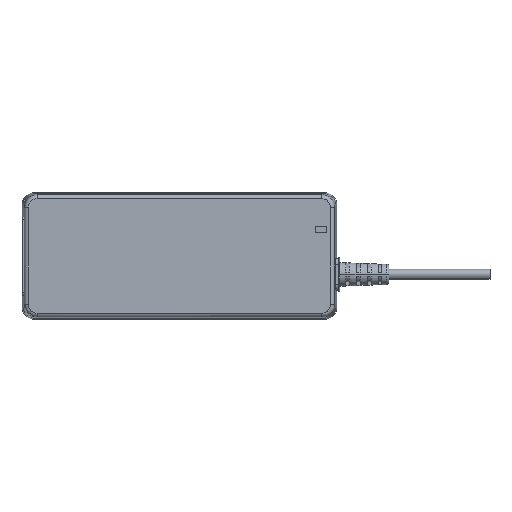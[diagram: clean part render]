
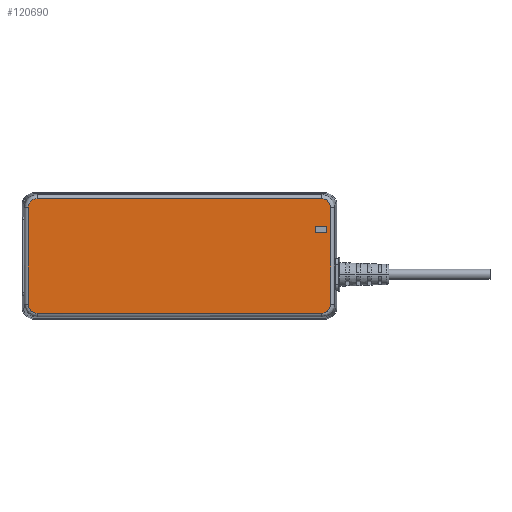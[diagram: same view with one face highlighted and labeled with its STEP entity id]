
A CAD part, top view. The second image highlights one B-rep face of the part: STEP entity #120690.
In plain terms, the highlighted planar face has unit normal (0, 0, 1).
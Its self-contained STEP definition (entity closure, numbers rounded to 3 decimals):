
#93270=CARTESIAN_POINT('',(76.196,49.956,
34.3));
#93280=VERTEX_POINT('',#93270);
#93310=CARTESIAN_POINT('',(79.691,53.452,
34.3));
#93320=CARTESIAN_POINT('',(79.691,52.537,
34.3));
#93330=CARTESIAN_POINT('',(79.358,51.655,
34.3));
#93340=CARTESIAN_POINT('',(78.767,50.88,
34.3));
#93350=CARTESIAN_POINT('',(77.993,50.289,
34.3));
#93360=CARTESIAN_POINT('',(77.111,49.956,
34.3));
#93370=CARTESIAN_POINT('',(76.196,49.956,
34.3));
#93380=B_SPLINE_CURVE_WITH_KNOTS('',6,(#93310,#93320,#93330,#93340,
#93350,#93360,#93370),.UNSPECIFIED.,.F.,.F.,(7,7),(0.,1.),.UNSPECIFIED.)
;
#93390=CARTESIAN_POINT('',(79.691,53.452,
34.3));
#93400=VERTEX_POINT('',#93390);
#93410=EDGE_CURVE('',#93400,#93280,#93380,.T.);
#94140=CARTESIAN_POINT('',(76.196,95.26,
34.3));
#94150=VERTEX_POINT('',#94140);
#94270=CARTESIAN_POINT('',(79.691,91.765,
34.3));
#94280=VERTEX_POINT('',#94270);
#94310=CARTESIAN_POINT('',(76.196,95.26,
34.3));
#94320=CARTESIAN_POINT('',(77.111,95.26,
34.3));
#94330=CARTESIAN_POINT('',(77.993,94.927,
34.3));
#94340=CARTESIAN_POINT('',(78.767,94.336,
34.3));
#94350=CARTESIAN_POINT('',(79.358,93.562,
34.3));
#94360=CARTESIAN_POINT('',(79.691,92.68,
34.3));
#94370=CARTESIAN_POINT('',(79.691,91.765,
34.3));
#94380=B_SPLINE_CURVE_WITH_KNOTS('',6,(#94310,#94320,#94330,#94340,
#94350,#94360,#94370),.UNSPECIFIED.,.F.,.F.,(7,7),(0.,1.),.UNSPECIFIED.)
;
#94390=EDGE_CURVE('',#94150,#94280,#94380,.T.);
#95020=CARTESIAN_POINT('',(-36.538,49.956,
34.3));
#95030=VERTEX_POINT('',#95020);
#95150=CARTESIAN_POINT('',(-40.033,53.452,
34.3));
#95160=VERTEX_POINT('',#95150);
#95190=CARTESIAN_POINT('',(-36.538,49.956,
34.3));
#95200=CARTESIAN_POINT('',(-37.453,49.956,
34.3));
#95210=CARTESIAN_POINT('',(-38.335,50.289,
34.3));
#95220=CARTESIAN_POINT('',(-39.109,50.88,
34.3));
#95230=CARTESIAN_POINT('',(-39.7,51.655,
34.3));
#95240=CARTESIAN_POINT('',(-40.033,52.537,
34.3));
#95250=CARTESIAN_POINT('',(-40.033,53.452,
34.3));
#95260=B_SPLINE_CURVE_WITH_KNOTS('',6,(#95190,#95200,#95210,#95220,
#95230,#95240,#95250),.UNSPECIFIED.,.F.,.F.,(7,7),(0.,1.),.UNSPECIFIED.)
;
#95270=EDGE_CURVE('',#95030,#95160,#95260,.T.);
#103730=CARTESIAN_POINT('',(-36.535,95.265,
34.3));
#103740=VERTEX_POINT('',#103730);
#103860=CARTESIAN_POINT('',(0.,95.26,34.3));
#103870=DIRECTION('',(-1.,0.,0.));
#103880=VECTOR('',#103870,1.);
#103890=LINE('',#103860,#103880);
#103900=EDGE_CURVE('',#94150,#103740,#103890,.T.);
#104900=CARTESIAN_POINT('',(0.,49.956,34.3));
#104910=DIRECTION('',(-1.,0.,0.));
#104920=VECTOR('',#104910,1.);
#104930=LINE('',#104900,#104920);
#104940=EDGE_CURVE('',#93280,#95030,#104930,.T.);
#105120=CARTESIAN_POINT('',(-36.529,91.756,
34.3));
#105130=DIRECTION('',(0.,0.,1.));
#105140=DIRECTION('',(1.,0.,0.));
#105150=AXIS2_PLACEMENT_3D('',#105120,#105130,#105140);
#105160=CIRCLE('',#105150,3.508);
#105170=CARTESIAN_POINT('',(-40.033,91.765,
34.3));
#105180=VERTEX_POINT('',#105170);
#105190=EDGE_CURVE('',#103740,#105180,#105160,.T.);
#111280=CARTESIAN_POINT('',(79.691,0.,34.3));
#111290=DIRECTION('',(0.,-1.,0.));
#111300=VECTOR('',#111290,1.);
#111310=LINE('',#111280,#111300);
#111320=EDGE_CURVE('',#94280,#93400,#111310,.T.);
#120150=CARTESIAN_POINT('',(-40.271,49.718,
34.3));
#120160=DIRECTION('',(0.,0.,1.));
#120170=DIRECTION('',(1.,0.,0.));
#120180=AXIS2_PLACEMENT_3D('',#120150,#120160,#120170);
#120190=PLANE('',#120180);
#120200=CARTESIAN_POINT('',(-40.033,0.,34.3));
#120210=DIRECTION('',(0.,1.,0.));
#120220=VECTOR('',#120210,1.);
#120230=LINE('',#120200,#120220);
#120240=EDGE_CURVE('',#95160,#105180,#120230,.T.);
#120250=ORIENTED_EDGE('',*,*,#120240,.F.);
#120260=ORIENTED_EDGE('',*,*,#105190,.T.);
#120270=ORIENTED_EDGE('',*,*,#103900,.T.);
#120280=ORIENTED_EDGE('',*,*,#94390,.F.);
#120290=ORIENTED_EDGE('',*,*,#111320,.F.);
#120300=ORIENTED_EDGE('',*,*,#93410,.F.);
#120310=ORIENTED_EDGE('',*,*,#104940,.F.);
#120320=ORIENTED_EDGE('',*,*,#95270,.F.);
#120330=EDGE_LOOP('',(#120320,#120310,#120300,#120290,#120280,#120270,
#120260,#120250));
#120340=FACE_OUTER_BOUND('',#120330,.T.);
#120350=CARTESIAN_POINT('',(78.164,0.,34.3));
#120360=DIRECTION('',(0.,-1.,0.));
#120370=VECTOR('',#120360,1.);
#120380=LINE('',#120350,#120370);
#120390=CARTESIAN_POINT('',(78.164,84.366,
34.3));
#120400=VERTEX_POINT('',#120390);
#120410=CARTESIAN_POINT('',(78.164,81.866,
34.3));
#120420=VERTEX_POINT('',#120410);
#120430=EDGE_CURVE('',#120400,#120420,#120380,.T.);
#120440=ORIENTED_EDGE('',*,*,#120430,.T.);
#120450=CARTESIAN_POINT('',(0.,84.366,34.3));
#120460=DIRECTION('',(1.,0.,0.));
#120470=VECTOR('',#120460,1.);
#120480=LINE('',#120450,#120470);
#120490=CARTESIAN_POINT('',(73.514,84.366,
34.3));
#120500=VERTEX_POINT('',#120490);
#120510=EDGE_CURVE('',#120500,#120400,#120480,.T.);
#120520=ORIENTED_EDGE('',*,*,#120510,.T.);
#120530=CARTESIAN_POINT('',(73.514,0.,34.3));
#120540=DIRECTION('',(0.,1.,0.));
#120550=VECTOR('',#120540,1.);
#120560=LINE('',#120530,#120550);
#120570=CARTESIAN_POINT('',(73.514,81.866,
34.3));
#120580=VERTEX_POINT('',#120570);
#120590=EDGE_CURVE('',#120580,#120500,#120560,.T.);
#120600=ORIENTED_EDGE('',*,*,#120590,.T.);
#120610=CARTESIAN_POINT('',(0.,81.866,34.3));
#120620=DIRECTION('',(-1.,0.,0.));
#120630=VECTOR('',#120620,1.);
#120640=LINE('',#120610,#120630);
#120650=EDGE_CURVE('',#120420,#120580,#120640,.T.);
#120660=ORIENTED_EDGE('',*,*,#120650,.T.);
#120670=EDGE_LOOP('',(#120660,#120600,#120520,#120440));
#120680=FACE_BOUND('',#120670,.T.);
#120690=ADVANCED_FACE('',(#120340,#120680),#120190,.T.);
